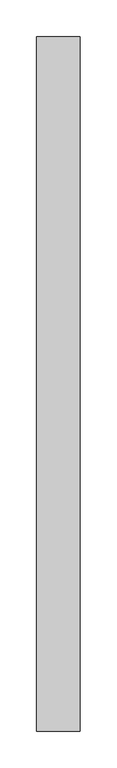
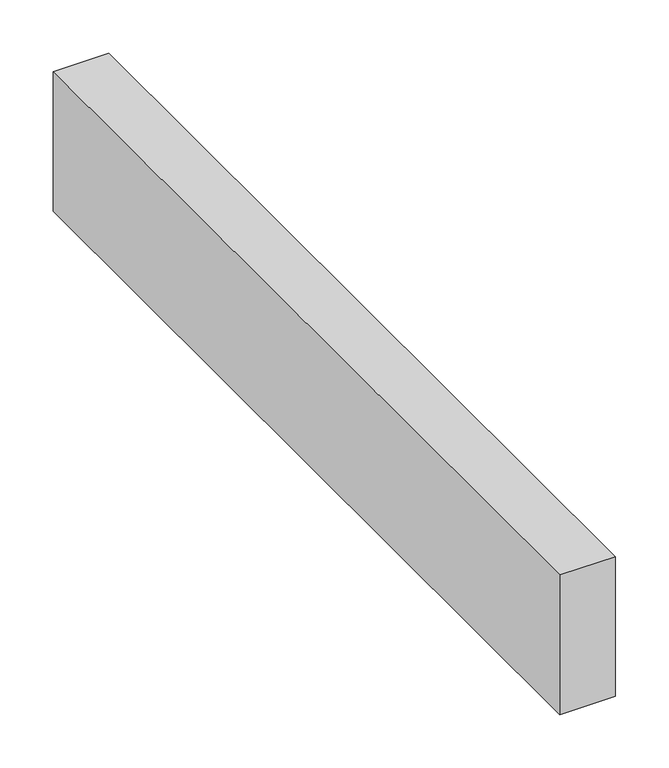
"""IFC4 building model written with IfcOpenShell, lengths in millimetres: proxy geometry, Modelos genéricos 51 : Modelos genéricos 9."""

from ifc_helpers import new_model, si_unit, frame, origin, place, context, project, spatial, polyline, outline, extrude, source, transform, mapped, element, save


def generic_models_d8525e1e(model_context):
    return source(origin(), model_context, "Body", "SweptSolid", [
        extrude(outline(polyline([(-5256.5527533, 2418.6238165), (-5256.5527533, 1468.6238165), (-5316.5527533, 1468.6238165), (-5316.5527533, 2418.6238165), (-5256.5527533, 2418.6238165)])), frame((0.0, 0.0, 3000.0), z_axis=(0.0, 0.0, 1.0), x_axis=(1.0, 0.0, 0.0)), (0.0, 0.0, 1.0), 160.0),
    ])


if __name__ == "__main__":
    model = new_model("IFC4")
    model_context = context("Model", 3, world=origin())
    ifc_project = project(units=[si_unit("LENGTHUNIT", "METRE", prefix="MILLI")], contexts=[model_context])
    site = spatial("IfcSite", under=ifc_project)
    building = spatial("IfcBuilding", under=site)
    placement = place(None, origin())
    generic_models_shape = generic_models_d8525e1e(model_context)
    element("IfcBuildingElementProxy", 1, Name="Modelos genéricos 51 : Modelos genéricos 9", ObjectType="Modelos genéricos 51 : Modelos genéricos 9", at=placement, inside=building, context=model_context, shape_type="MappedRepresentation", body=[
        mapped(generic_models_shape, transform((0.0, 0.0, 0.0), x_axis=(1.0, 0.0, 0.0), y_axis=(0.0, 1.0, 0.0), z_axis=(0.0, 0.0, 1.0))),
    ])
    save(model, "model.ifc")
